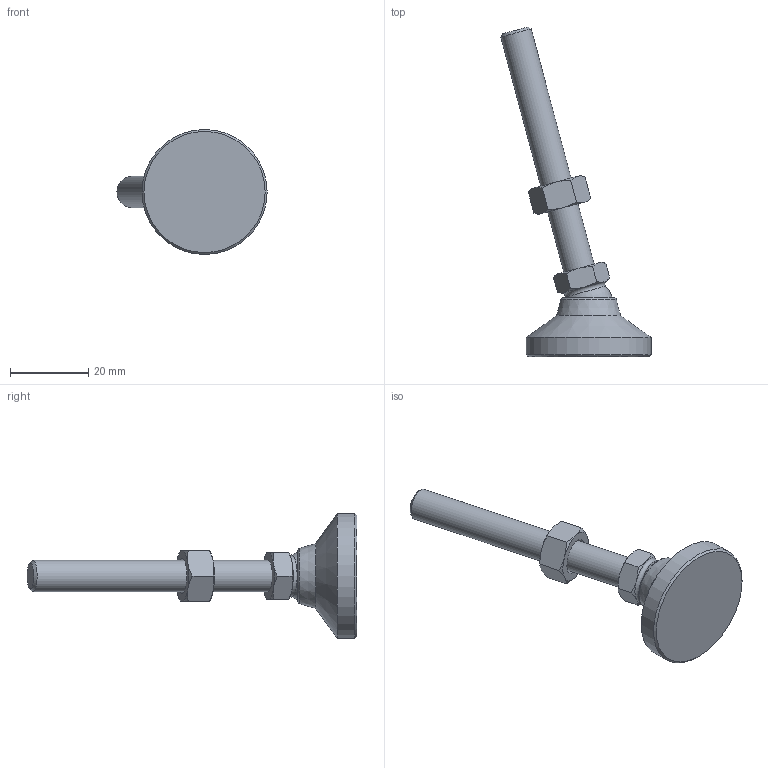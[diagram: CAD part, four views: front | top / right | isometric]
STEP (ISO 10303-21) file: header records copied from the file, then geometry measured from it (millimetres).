
FILE_DESCRIPTION( ( 'STEP AP214' ), ' ' );
FILE_NAME( 'O:/ganter_2015/teil_2/2_5/gn343_2/gn343_2_os/Levelling foot with threaded stud GN 343.2-32-M8-63-OS-(15).stp', '2015-10-26T09:06:53', ( '' ), ( '' ), ' ', 'PARTsolutions', ' ' );
FILE_SCHEMA( ( 'AUTOMOTIVE_DESIGN { 1 0 10303 214 1 1 1 1 }' ) );
Length unit declared in the file: millimetre
Products named in the file (4): Levelling foot with threaded stud GN 343.2-32-M8-63-OS-(15); _Levelling foot with threaded stud GN 343.2-32-M8-63-OS-(15)_foot; _Levelling foot with threaded stud GN 343.2-32-M8-63-OS-(15)_screw; _Stainless Steel-Levelling feet GN 343.2-32-M8-63-OS-(15)_nut
Assembly tree (3 placements, depth 2):
  Levelling foot with threaded stud GN 343.2-32-M8-63-OS-(15)
    _Levelling foot with threaded stud GN 343.2-32-M8-63-OS-(15)_foot
    _Levelling foot with threaded stud GN 343.2-32-M8-63-OS-(15)_screw
    _Stainless Steel-Levelling feet GN 343.2-32-M8-63-OS-(15)_nut
Bounding box: 38.43 x 84.39 x 32 mm (x, y, z)
Volume: 12307.6 mm3; surface area: 5537 mm2
Topology: 3 solids, 3 shells, 55 faces, 116 edges, 67 vertices
Faces by surface type: cone 30, plane 18, cylinder 3, torus 2, sphere 2
Full cylindrical faces by diameter (mm): 6.647 x1, 8 x1, 32 x1
Entity records: 2022 total; most frequent: CARTESIAN_POINT 479, DIRECTION 208, ORIENTED_EDGE 198, EDGE_CURVE 99, AXIS2_PLACEMENT_3D 98, EDGE_LOOP 70, VERTEX_POINT 65, FACE_OUTER_BOUND 60
